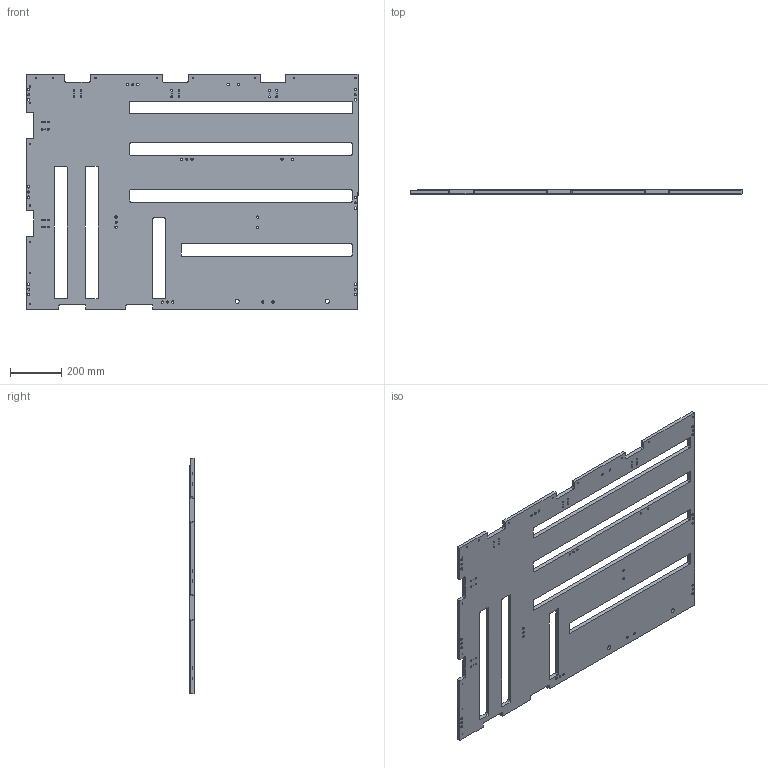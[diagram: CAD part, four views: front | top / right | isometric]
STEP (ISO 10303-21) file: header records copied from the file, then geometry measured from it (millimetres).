
FILE_DESCRIPTION (( 'STEP AP214' ), '1' );
FILE_NAME ('251106002-HY.step', '2026-09-29T02:46:42', ( '' ), ( '' ), 'SwSTEP 2.0', 'SolidWorks 2023', '' );
FILE_SCHEMA (( 'AUTOMOTIVE_DESIGN' ));
Length unit declared in the file: millimetre
Products named in the file (1): 251106002-HY
Bounding box: 1290 x 16 x 915 mm (x, y, z)
Volume: 14656327.1 mm3; surface area: 2120992.1 mm2
Topology: 1 solids, 1 shells, 503 faces, 1303 edges, 822 vertices
Faces by surface type: cylinder 324, plane 123, cone 56
Entity records: 15526 total; most frequent: DIRECTION 2913, CARTESIAN_POINT 2573, ORIENTED_EDGE 2494, EDGE_CURVE 1247, AXIS2_PLACEMENT_3D 1162, VERTEX_POINT 822, EDGE_LOOP 723, CIRCLE 658
